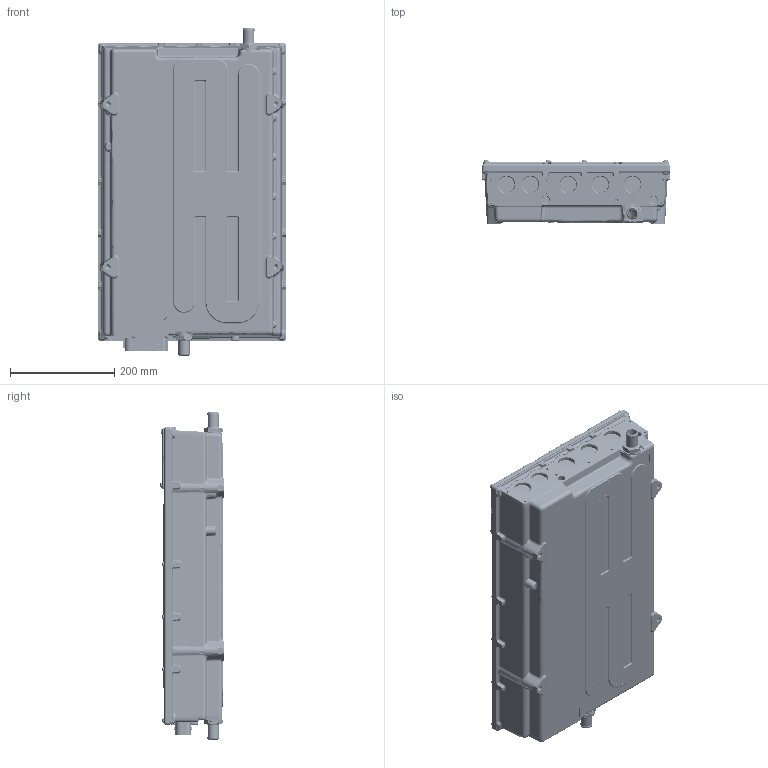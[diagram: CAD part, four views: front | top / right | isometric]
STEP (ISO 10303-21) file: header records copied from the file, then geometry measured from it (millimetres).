
FILE_DESCRIPTION(/* description */ (''),/* implementation_level */ '2;1');
FILE_NAME(/* name */ 'C:\1SSDE Vault\CAD\GVI\GVI_Frame_H\GVI_Frame_H_Shrinkwrap_1.stp',/* time_stamp */ '2019-09-12T16:10:59+01:00',/* author */ ('SC084691'),/* organization */ (''),/* preprocessor_version */ 'ST-DEVELOPER v18',/* originating_system */ 'Autodesk Inventor 2020',/* authorisation */ '');
FILE_SCHEMA (('CONFIG_CONTROL_DESIGN'));
Products named in the file (1): GVI_Frame_H_Shrinkwrap_1
Bounding box: 361.5 x 121.8 x 628.15 mm (x, y, z)
Volume: 16453346.8 mm3; surface area: 1598449.2 mm2
Topology: 36 solids, 36 shells, 15839 faces, 36128 edges, 20607 vertices
Faces by surface type: cone 5044, cylinder 3340, plane 2822, torus 2540, bspline 1888, sphere 205
Full cylindrical faces by diameter (mm): 1.6 x2, 2.5 x2, 2.8 x2, 2.809 x24, 3 x22, 3.131 x4, 3.6 x2, 4 x16, 4.05 x4, 4.2 x14, 4.5 x4, 4.7 x12, 5.6 x4, 5.8 x17, 6 x1, 6.78 x1, 7.22 x1, 8.5 x5, 9.5 x18, 10.5 x1, 10.8 x1, 12 x2, 14 x2, 15 x2, 17 x1, 18.4 x2, 19 x2, 22 x2, 23.2 x2, 23.4 x2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
Entity records: 600289 total; most frequent: CARTESIAN_POINT 233270, DIRECTION 76842, ORIENTED_EDGE 72020, EDGE_CURVE 36010, AXIS2_PLACEMENT_3D 30669, VERTEX_POINT 20607, EDGE_LOOP 16375, CIRCLE 16203
